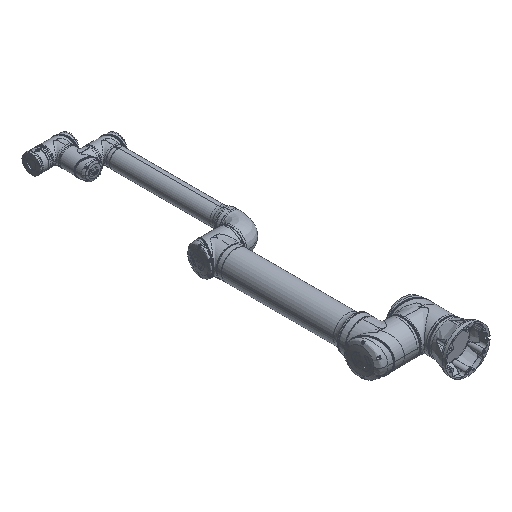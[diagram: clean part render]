
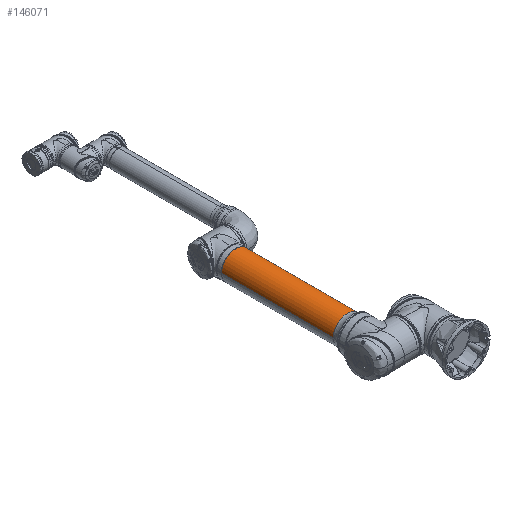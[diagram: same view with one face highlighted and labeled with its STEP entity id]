
A CAD part, isometric view. The second image highlights one B-rep face of the part: STEP entity #146071.
In plain terms, the highlighted cylindrical face has radius 76 mm (diameter 152 mm), a partial arc.
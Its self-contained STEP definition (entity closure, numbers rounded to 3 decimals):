
#4012 = EDGE_CURVE ( 'NONE', #123217, #105838, #279440, .T. ) ;
#4347 = CARTESIAN_POINT ( 'NONE',  ( -125.382, 285.309, 76. ) ) ;
#5958 = CARTESIAN_POINT ( 'NONE',  ( -125.382, -403.191, 76. ) ) ;
#16621 = AXIS2_PLACEMENT_3D ( 'NONE', #199393, #72322, #46047 ) ;
#27979 = DIRECTION ( 'NONE',  ( 0., -1., 0. ) ) ;
#43763 = VECTOR ( 'NONE', #27979, 1000. ) ;
#46047 = DIRECTION ( 'NONE',  ( 0., 0., 1. ) ) ;
#48172 = ORIENTED_EDGE ( 'NONE', *, *, #4012, .T. ) ;
#61324 = CARTESIAN_POINT ( 'NONE',  ( -125.382, 285.309, 0. ) ) ;
#72322 = DIRECTION ( 'NONE',  ( 0., -1., 0. ) ) ;
#85051 = EDGE_CURVE ( 'NONE', #206004, #271434, #301517, .T. ) ;
#85508 = EDGE_LOOP ( 'NONE', ( #48172, #111791, #274902, #180026 ) ) ;
#104981 = CARTESIAN_POINT ( 'NONE',  ( -125.382, -315.484, 0. ) ) ;
#105838 = VERTEX_POINT ( 'NONE', #187484 ) ;
#111012 = VECTOR ( 'NONE', #306195, 1000. ) ;
#111791 = ORIENTED_EDGE ( 'NONE', *, *, #276356, .T. ) ;
#114090 = EDGE_CURVE ( 'NONE', #123217, #271434, #185687, .T. ) ;
#123217 = VERTEX_POINT ( 'NONE', #4347 ) ;
#133512 = DIRECTION ( 'NONE',  ( 0., 0., 1. ) ) ;
#146071 = ADVANCED_FACE ( 'NONE', ( #296586 ), #312228, .T. ) ;
#150865 = CARTESIAN_POINT ( 'NONE',  ( -125.382, -403.191, -76. ) ) ;
#156893 = AXIS2_PLACEMENT_3D ( 'NONE', #61324, #237761, #187418 ) ;
#180026 = ORIENTED_EDGE ( 'NONE', *, *, #114090, .F. ) ;
#185046 = DIRECTION ( 'NONE',  ( 0., 1., 0. ) ) ;
#185687 = LINE ( 'NONE', #5958, #111012 ) ;
#187418 = DIRECTION ( 'NONE',  ( 0., 0., 1. ) ) ;
#187484 = CARTESIAN_POINT ( 'NONE',  ( -125.382, 285.309, -76. ) ) ;
#189379 = CARTESIAN_POINT ( 'NONE',  ( -125.382, -315.484, -76. ) ) ;
#199393 = CARTESIAN_POINT ( 'NONE',  ( -125.382, -403.191, 0. ) ) ;
#206004 = VERTEX_POINT ( 'NONE', #189379 ) ;
#237761 = DIRECTION ( 'NONE',  ( 0., -1., 0. ) ) ;
#266320 = AXIS2_PLACEMENT_3D ( 'NONE', #104981, #185046, #133512 ) ;
#271434 = VERTEX_POINT ( 'NONE', #284496 ) ;
#274902 = ORIENTED_EDGE ( 'NONE', *, *, #85051, .T. ) ;
#276356 = EDGE_CURVE ( 'NONE', #105838, #206004, #318257, .T. ) ;
#279440 = CIRCLE ( 'NONE', #156893, 76. ) ;
#284496 = CARTESIAN_POINT ( 'NONE',  ( -125.382, -315.484, 76. ) ) ;
#296586 = FACE_OUTER_BOUND ( 'NONE', #85508, .T. ) ;
#301517 = CIRCLE ( 'NONE', #266320, 76. ) ;
#306195 = DIRECTION ( 'NONE',  ( 0., -1., 0. ) ) ;
#312228 = CYLINDRICAL_SURFACE ( 'NONE', #16621, 76. ) ;
#318257 = LINE ( 'NONE', #150865, #43763 ) ;
